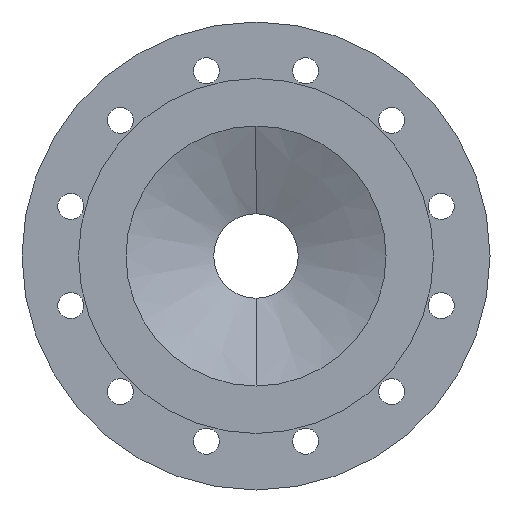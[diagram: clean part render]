
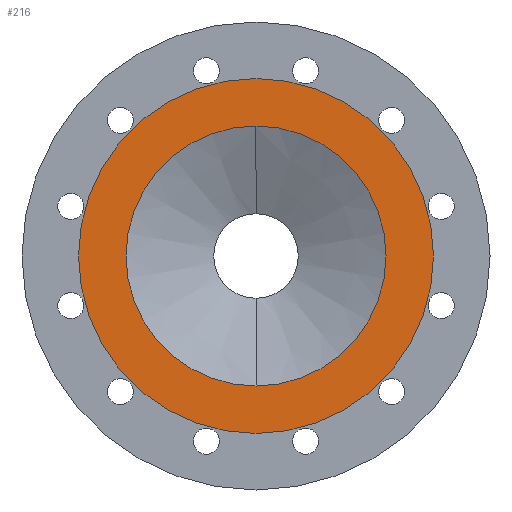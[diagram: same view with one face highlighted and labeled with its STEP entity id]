
A CAD part, left-side view. The second image highlights one B-rep face of the part: STEP entity #216.
In plain terms, the highlighted planar face has unit normal (-1, 0, 0).
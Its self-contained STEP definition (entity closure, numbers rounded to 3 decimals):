
#216=ADVANCED_FACE('',(#460,#461),#462,.F.);
#460=FACE_BOUND('',#821,.T.);
#461=FACE_OUTER_BOUND('',#822,.T.);
#462=PLANE('',#823);
#821=EDGE_LOOP('',(#1157,#1158));
#822=EDGE_LOOP('',(#1159,#1160));
#823=AXIS2_PLACEMENT_3D('',#1161,#1162,#1163);
#1157=ORIENTED_EDGE('',*,*,#1890,.T.);
#1158=ORIENTED_EDGE('',*,*,#1891,.T.);
#1159=ORIENTED_EDGE('',*,*,#1892,.F.);
#1160=ORIENTED_EDGE('',*,*,#1893,.F.);
#1161=CARTESIAN_POINT('',(0.0,0.0,0.));
#1162=DIRECTION('',(1.0,0.0,0.));
#1163=DIRECTION('',(0.,0.0,-1.0));
#1890=EDGE_CURVE('',#2213,#2214,#2215,.T.);
#1891=EDGE_CURVE('',#2214,#2213,#2216,.T.);
#1892=EDGE_CURVE('',#2217,#2218,#2219,.T.);
#1893=EDGE_CURVE('',#2218,#2217,#2220,.T.);
#2213=VERTEX_POINT('',#2658);
#2214=VERTEX_POINT('',#2659);
#2215=CIRCLE('',#2660,100.0);
#2216=CIRCLE('',#2661,100.0);
#2217=VERTEX_POINT('',#2662);
#2218=VERTEX_POINT('',#2663);
#2219=CIRCLE('',#2664,136.5);
#2220=CIRCLE('',#2665,136.5);
#2658=CARTESIAN_POINT('',(0.,0.0,-100.0));
#2659=CARTESIAN_POINT('',(0.,0.,100.0));
#2660=AXIS2_PLACEMENT_3D('',#3165,#3166,#3167);
#2661=AXIS2_PLACEMENT_3D('',#3168,#3169,#3170);
#2662=CARTESIAN_POINT('',(0.,0.0,-136.5));
#2663=CARTESIAN_POINT('',(0.,0.,136.5));
#2664=AXIS2_PLACEMENT_3D('',#3171,#3172,#3173);
#2665=AXIS2_PLACEMENT_3D('',#3174,#3175,#3176);
#3165=CARTESIAN_POINT('',(0.0,0.0,0.0));
#3166=DIRECTION('',(1.0,0.0,0.));
#3167=DIRECTION('',(0.,0.0,-1.0));
#3168=CARTESIAN_POINT('',(0.0,0.0,0.0));
#3169=DIRECTION('',(1.0,0.0,0.));
#3170=DIRECTION('',(0.,0.0,-1.0));
#3171=CARTESIAN_POINT('',(0.0,0.0,0.));
#3172=DIRECTION('',(1.0,0.0,0.));
#3173=DIRECTION('',(0.,0.0,-1.0));
#3174=CARTESIAN_POINT('',(0.0,0.0,0.));
#3175=DIRECTION('',(1.0,0.0,0.));
#3176=DIRECTION('',(0.,0.0,-1.0));
